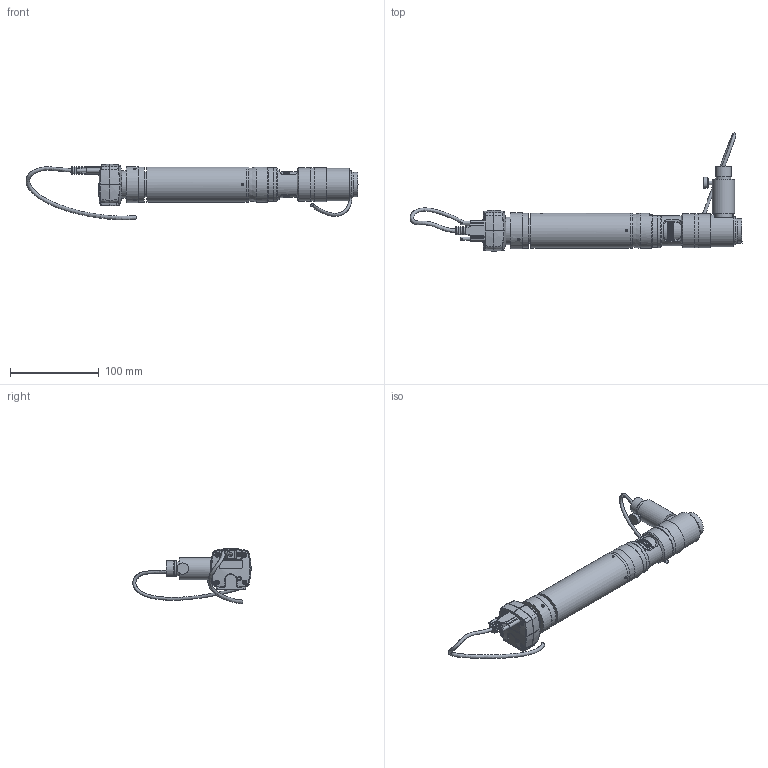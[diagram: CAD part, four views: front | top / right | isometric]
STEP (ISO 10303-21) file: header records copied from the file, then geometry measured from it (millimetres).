
FILE_DESCRIPTION(/* description */ (''),/* implementation_level */ '2;1');
FILE_NAME(/* name */ 'S:\Bureau-Technique\Vidéo\MA 730E-Z1-074-SC.stp',/* time_stamp */ '2018-10-08T09:37:05+02:00',/* author */ ('chu'),/* organization */ ('Marcel Aubert'),/* preprocessor_version */ 'ST-DEVELOPER v17.2',/* originating_system */ 'Autodesk Inventor 2019',/* authorisation */ '');
FILE_SCHEMA (('AUTOMOTIVE_DESIGN { 1 0 10303 214 3 1 1 }'));
Length unit declared in the file: millimetre
Products named in the file (1): Pièce1
Bounding box: 375.08 x 133.72 x 62.71 mm (x, y, z)
Volume: 272866 mm3; surface area: 85326.7 mm2
Topology: 3 solids, 14 shells, 1282 faces, 3433 edges, 2257 vertices
Faces by surface type: plane 679, cylinder 354, bspline 126, cone 55, torus 48, sphere 20
Full cylindrical faces by diameter (mm): 0.6 x8, 0.8 x6, 1.88 x4, 2 x3, 2.3 x3, 2.459 x9, 2.5 x2, 3 x4, 3.2 x3, 3.242 x5, 3.3 x1, 3.5 x5, 3.9 x2, 4 x4, 5 x2, 6 x1, 7.1 x2, 7.4 x2, 7.5 x1, 8 x1, 8.6 x3, 9.6 x1, 12.7 x1, 12.93 x1, 13 x1, 14 x2, 15 x1, 16 x3, 16.3 x1, 18 x1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
Entity records: 65010 total; most frequent: CARTESIAN_POINT 31823, ORIENTED_EDGE 6848, DIRECTION 6440, EDGE_CURVE 3424, AXIS2_PLACEMENT_3D 2435, VERTEX_POINT 2257, LINE 1570, VECTOR 1570
